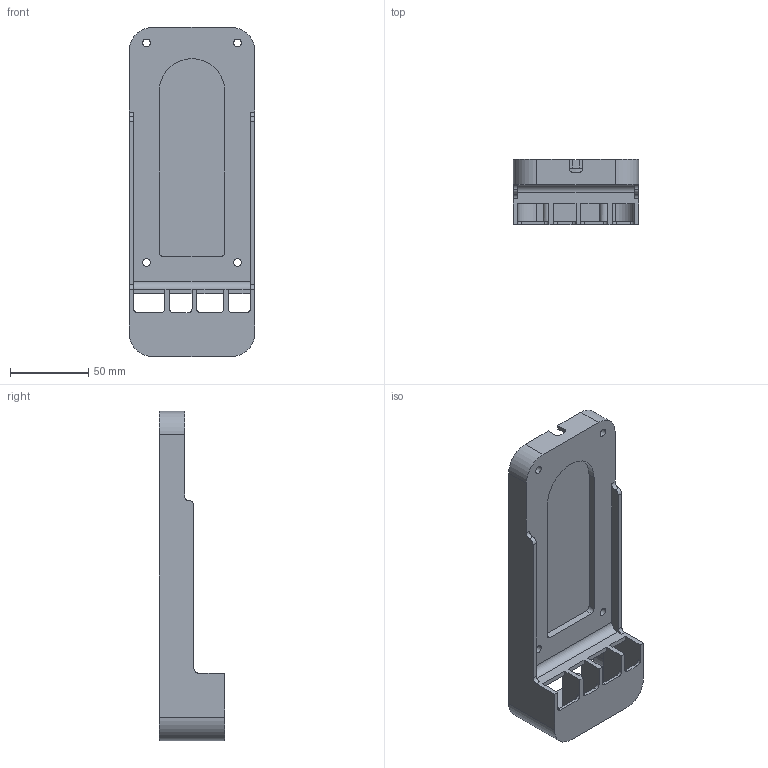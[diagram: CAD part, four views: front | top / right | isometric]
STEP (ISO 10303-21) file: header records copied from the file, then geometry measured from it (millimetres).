
FILE_DESCRIPTION((''),'2;1');
FILE_NAME('FRAME-MAIN','2025-11-10T13:43:12',('vevem'),(''),'CREO PARAMETRIC BY PTC INC, 2024253','CREO PARAMETRIC BY PTC INC, 2024253','');
FILE_SCHEMA(('AUTOMOTIVE_DESIGN { 1 0 10303 214 1 1 1 1 }'));
Length unit declared in the file: millimetre
Products named in the file (1): FRAME-MAIN
Bounding box: 80 x 41.5 x 210 mm (x, y, z)
Volume: 113263.9 mm3; surface area: 73600.9 mm2
Topology: 1 solids, 1 shells, 250 faces, 728 edges, 482 vertices
Faces by surface type: plane 138, cylinder 112
Entity records: 10610 total; most frequent: DIRECTION 1466, CARTESIAN_POINT 1462, ORIENTED_EDGE 1456, PRESENTATION_STYLE_ASSIGNMENT 729, STYLED_ITEM 729, CURVE_STYLE 728, EDGE_CURVE 728, VECTOR 490
